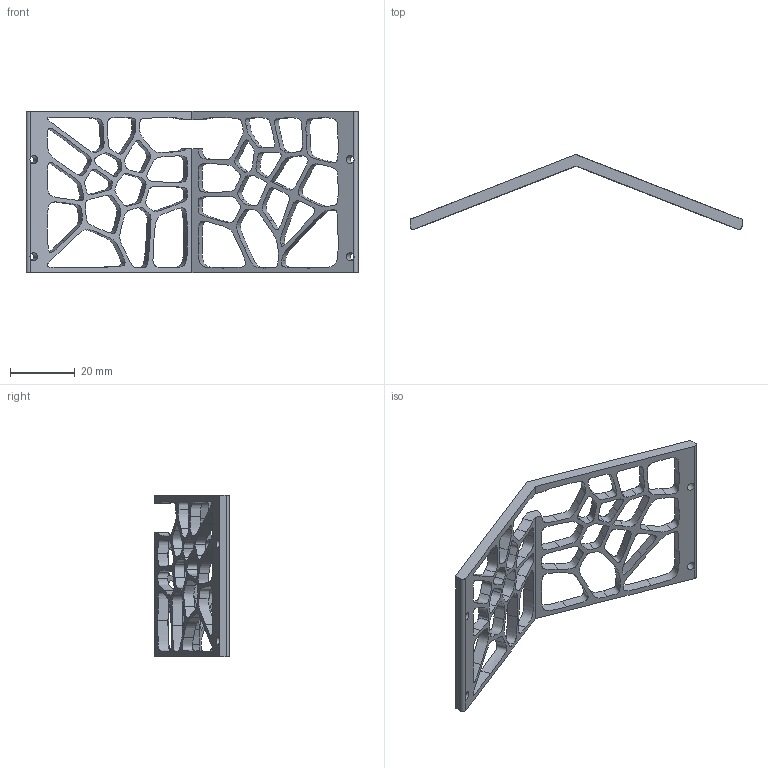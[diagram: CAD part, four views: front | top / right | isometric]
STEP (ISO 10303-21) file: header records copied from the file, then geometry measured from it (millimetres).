
FILE_DESCRIPTION(/* description */ (''),/* implementation_level */ '2;1');
FILE_NAME(/* name */ 'rearfront_guard.step',/* time_stamp */ '2026-06-11T18:41:04-06:00',/* author */ (''),/* organization */ (''),/* preprocessor_version */ 'ST-DEVELOPER v20.1',/* originating_system */ 'Autodesk Translation Framework v15.8.0.0',/* authorisation */ '');
FILE_SCHEMA (('AUTOMOTIVE_DESIGN { 1 0 10303 214 3 1 1 }'));
Length unit declared in the file: millimetre
Products named in the file (1): rear/front_guard
Bounding box: 102.49 x 23.08 x 50 mm (x, y, z)
Volume: 6386.5 mm3; surface area: 9166.5 mm2
Topology: 1 solids, 1 shells, 181 faces, 555 edges, 370 vertices
Faces by surface type: bspline 165, plane 10, cylinder 6
Full cylindrical faces by diameter (mm): 2.5 x4
Entity records: 7348 total; most frequent: CARTESIAN_POINT 3532, ORIENTED_EDGE 1110, EDGE_CURVE 555, VERTEX_POINT 370, B_SPLINE_CURVE_WITH_KNOTS 340, DIRECTION 263, EDGE_LOOP 245, LINE 201
